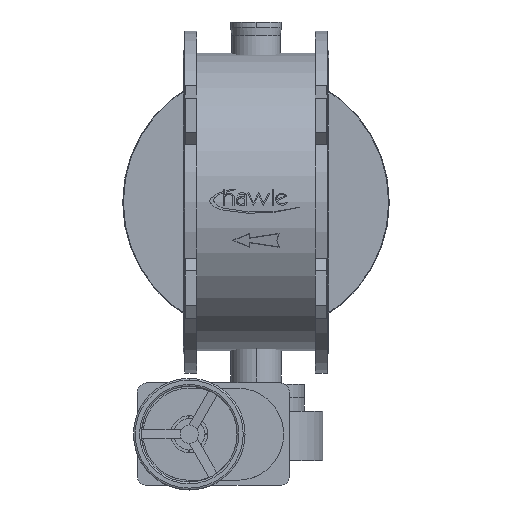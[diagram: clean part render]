
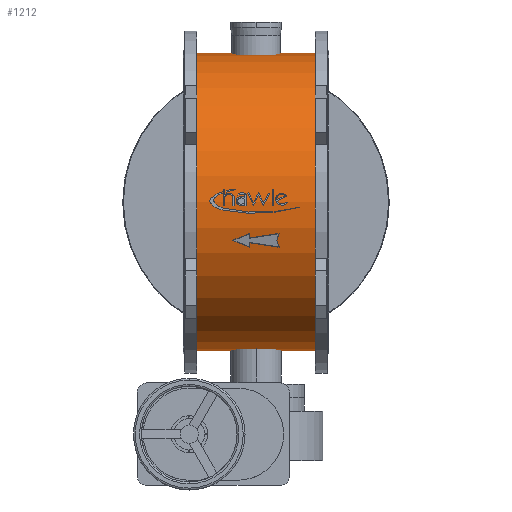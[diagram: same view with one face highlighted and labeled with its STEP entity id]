
A CAD part, top view. The second image highlights one B-rep face of the part: STEP entity #1212.
In plain terms, the highlighted cylindrical face has radius 646 mm (diameter 1292 mm), a partial arc.
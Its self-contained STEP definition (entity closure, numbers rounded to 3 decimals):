
#1212=ADVANCED_FACE('',(#2616),#2617,.T.);
#2616=FACE_OUTER_BOUND('',#4658,.T.);
#2617=CYLINDRICAL_SURFACE('',#4659,646.0);
#4658=EDGE_LOOP('',(#6840,#6841,#6842,#6843));
#4659=AXIS2_PLACEMENT_3D('',#6844,#6845,#6846);
#6840=ORIENTED_EDGE('',*,*,#11065,.T.);
#6841=ORIENTED_EDGE('',*,*,#11066,.T.);
#6842=ORIENTED_EDGE('',*,*,#11067,.T.);
#6843=ORIENTED_EDGE('',*,*,#10643,.T.);
#6844=CARTESIAN_POINT('',(-573.0,0.,0.0));
#6845=DIRECTION('',(1.0,0.,0.0));
#6846=DIRECTION('',(0.,-1.0,0.0));
#10643=EDGE_CURVE('',#12436,#12435,#12438,.T.);
#11065=EDGE_CURVE('',#12435,#13176,#13177,.T.);
#11066=EDGE_CURVE('',#13176,#13178,#13179,.T.);
#11067=EDGE_CURVE('',#13178,#12436,#13180,.T.);
#12435=VERTEX_POINT('',#15017);
#12436=VERTEX_POINT('',#15018);
#12438=CIRCLE('',#15020,646.0);
#13176=VERTEX_POINT('',#15923);
#13177=LINE('',#15924,#15925);
#13178=VERTEX_POINT('',#15926);
#13179=CIRCLE('',#15927,646.0);
#13180=LINE('',#15928,#15929);
#15017=CARTESIAN_POINT('',(-573.0,-646.0,0.0));
#15018=CARTESIAN_POINT('',(-573.0,646.0,0.));
#15020=AXIS2_PLACEMENT_3D('',#18180,#18181,#18182);
#15923=CARTESIAN_POINT('',(-57.0,-646.0,0.0));
#15924=CARTESIAN_POINT('',(-573.0,-646.0,0.));
#15925=VECTOR('',#18882,1.0);
#15926=CARTESIAN_POINT('',(-57.0,646.0,0.));
#15927=AXIS2_PLACEMENT_3D('',#18883,#18884,#18885);
#15928=CARTESIAN_POINT('',(-573.0,646.0,0.));
#15929=VECTOR('',#18886,1.0);
#18180=CARTESIAN_POINT('',(-573.0,0.,0.0));
#18181=DIRECTION('',(1.0,0.,0.0));
#18182=DIRECTION('',(0.,-1.0,0.0));
#18882=DIRECTION('',(1.0,0.,0.0));
#18883=CARTESIAN_POINT('',(-57.0,0.,0.0));
#18884=DIRECTION('',(-1.0,0.,0.0));
#18885=DIRECTION('',(0.,-1.0,0.0));
#18886=DIRECTION('',(-1.0,0.,-0.0));
